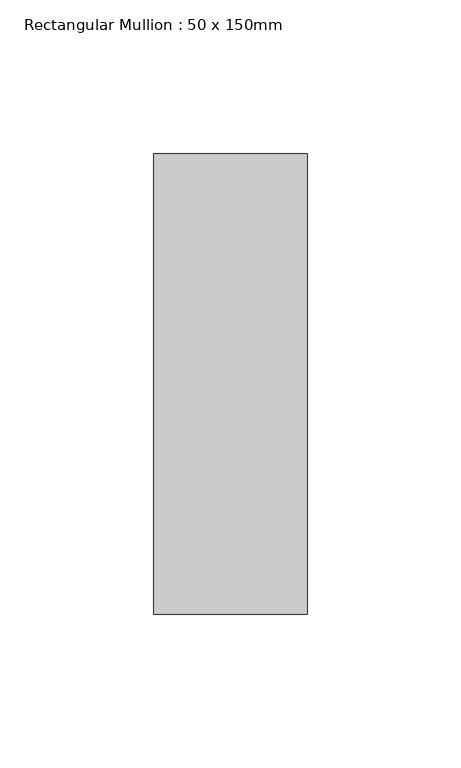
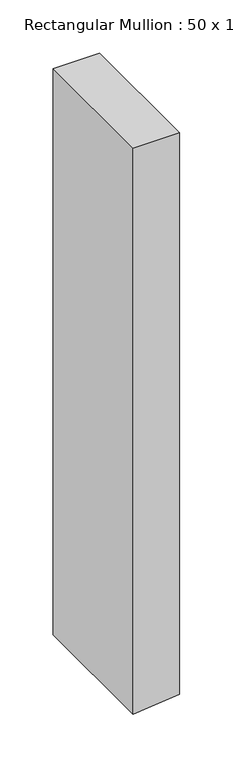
"""IFC4 building model written with IfcOpenShell, lengths in millimetres: member geometry, Rectangular Mullion : 50 x 150mm."""

from ifc_helpers import new_model, si_unit, frame, origin, place, context, project, spatial, polyline, outline, extrude, source, transform, mapped, element, save


def rectangular_mullion_50_x_150mm_5dccfb95(model_context):
    return source(origin(), model_context, "Body", "SweptSolid", [
        extrude(outline(polyline([(0.0, 25.0), (0.0, -25.0), (-647.4186045, -25.0), (-645.4078374, -5.0022633), (-642.3911178, 25.0), (0.0, 25.0)])), frame((0.0, -75.0, 0.0), z_axis=(0.0, 1.0, 0.0), x_axis=(0.0, 0.0, 1.0)), (0.0, 0.0, 1.0), 150.0),
    ])


if __name__ == "__main__":
    model = new_model("IFC4")
    model_context = context("Model", 3, world=origin())
    ifc_project = project(units=[si_unit("LENGTHUNIT", "METRE", prefix="MILLI")], contexts=[model_context])
    site = spatial("IfcSite", under=ifc_project)
    building = spatial("IfcBuilding", under=site)
    placement = place(None, origin())
    rectangular_mullion_50_x_150mm_shape = rectangular_mullion_50_x_150mm_5dccfb95(model_context)
    element("IfcMember", 1, ObjectType="Rectangular Mullion : 50 x 150mm", at=placement, inside=building, context=model_context, shape_type="MappedRepresentation", body=[
        mapped(rectangular_mullion_50_x_150mm_shape, transform((0.0, 0.0, 0.0), x_axis=(1.0, 0.0, 0.0), y_axis=(0.0, 1.0, 0.0), z_axis=(0.0, 0.0, 1.0))),
    ])
    save(model, "model.ifc")
